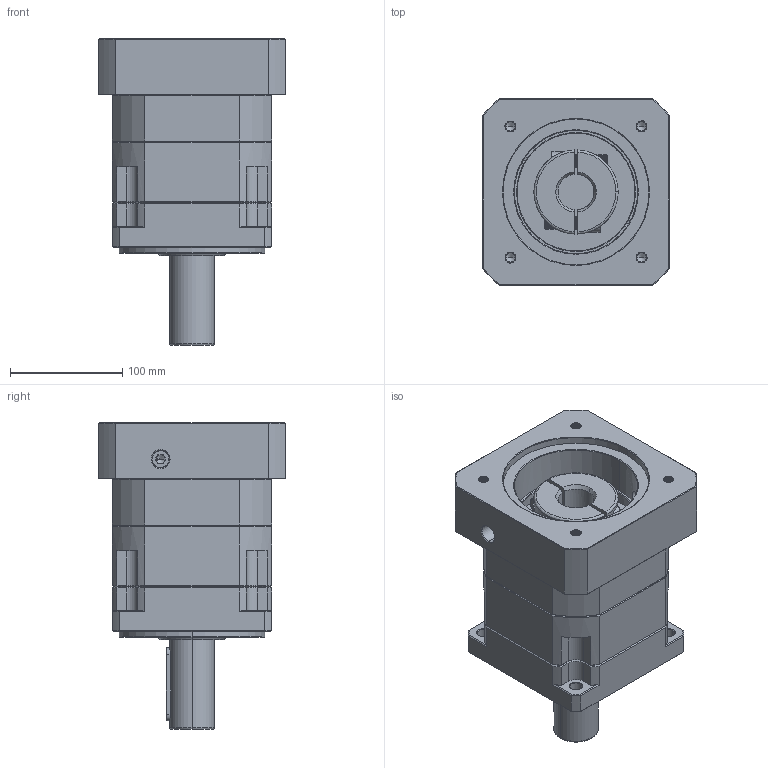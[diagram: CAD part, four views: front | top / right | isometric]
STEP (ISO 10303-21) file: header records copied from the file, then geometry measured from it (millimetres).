
FILE_DESCRIPTION (( 'STEP AP214' ), '1' );
FILE_NAME ('ZB142A-D40-L1-P2-32-130-165-M10.step', '2023-09-01T11:41:45', ( '' ), ( '' ), 'SwSTEP 2.0', 'SolidWorks 2016', '' );
FILE_SCHEMA (( 'AUTOMOTIVE_DESIGN' ));
Length unit declared in the file: millimetre
Products named in the file (1): ZB142A-D40-L1-P2-32-130-165-M10
Bounding box: 166 x 166 x 273.2 mm (x, y, z)
Volume: 3584928.7 mm3; surface area: 304596.9 mm2
Topology: 6 solids, 6 shells, 2320 faces, 6216 edges, 4000 vertices
Faces by surface type: plane 1103, cylinder 432, bspline 411, cone 352, torus 22
Entity records: 129432 total; most frequent: CARTESIAN_POINT 49229, ORIENTED_EDGE 12372, DIRECTION 9802, EDGE_CURVE 6186, VERTEX_POINT 4000, LINE 3906, VECTOR 3906, AXIS2_PLACEMENT_3D 2948
